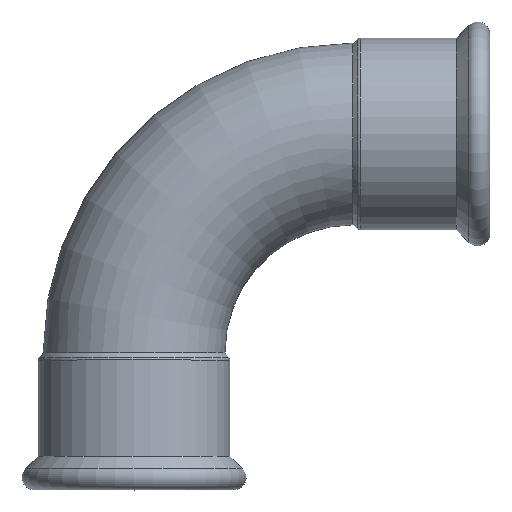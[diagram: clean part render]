
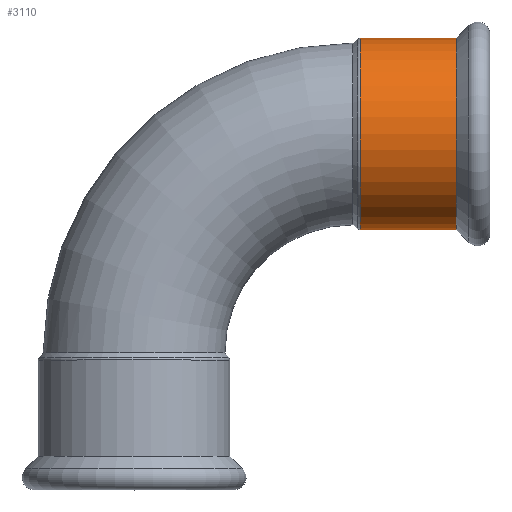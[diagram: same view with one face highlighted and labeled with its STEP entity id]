
A CAD part, top view. The second image highlights one B-rep face of the part: STEP entity #3110.
In plain terms, the highlighted cylindrical face has radius 46.85 mm (diameter 93.7 mm), a partial arc.
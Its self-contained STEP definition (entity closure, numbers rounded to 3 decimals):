
#1760=CARTESIAN_POINT('',(54.615,-46.85,0.));
#1770=VERTEX_POINT('',#1760);
#1950=CARTESIAN_POINT('',(54.615,46.85,0.))
;
#1960=VERTEX_POINT('',#1950);
#1990=CARTESIAN_POINT('',(54.615,0.,0.));
#2000=DIRECTION('',(1.,0.,0.));
#2010=DIRECTION('',(0.,1.,0.));
#2020=AXIS2_PLACEMENT_3D('',#1990,#2000,#2010);
#2030=CIRCLE('',#2020,46.85);
#2790=CARTESIAN_POINT('',(45.44,0.,0.));
#2800=DIRECTION('',(-1.,0.,0.));
#2810=DIRECTION('',(0.,1.,0.));
#2820=AXIS2_PLACEMENT_3D('',#2790,#2800,#2810);
#2830=CYLINDRICAL_SURFACE('',#2820,46.85);
#2840=CARTESIAN_POINT('',(45.44,46.85,0.));
#2850=DIRECTION('',(-1.,0.,0.));
#2860=VECTOR('',#2850,1.);
#2870=LINE('',#2840,#2860);
#2880=CARTESIAN_POINT('',(7.588,46.85,0.));
#2890=VERTEX_POINT('',#2880);
#2900=EDGE_CURVE('',#1960,#2890,#2870,.T.);
#2910=ORIENTED_EDGE('',*,*,#2900,.T.);
#2920=EDGE_CURVE('',#1960,#1770,#2030,.T.);
#2930=ORIENTED_EDGE('',*,*,#2920,.F.);
#2940=CARTESIAN_POINT('',(45.44,-46.85,0.)
);
#2950=DIRECTION('',(-1.,0.,0.));
#2960=VECTOR('',#2950,1.);
#2970=LINE('',#2940,#2960);
#2980=CARTESIAN_POINT('',(7.588,-46.85,0.));
#2990=VERTEX_POINT('',#2980);
#3000=EDGE_CURVE('',#1770,#2990,#2970,.T.);
#3010=ORIENTED_EDGE('',*,*,#3000,.F.);
#3020=CARTESIAN_POINT('',(7.588,0.,0.));
#3030=DIRECTION('',(-1.,0.,0.));
#3040=DIRECTION('',(0.,1.,0.));
#3050=AXIS2_PLACEMENT_3D('',#3020,#3030,#3040);
#3060=CIRCLE('',#3050,46.85);
#3070=EDGE_CURVE('',#2990,#2890,#3060,.T.);
#3080=ORIENTED_EDGE('',*,*,#3070,.F.);
#3090=EDGE_LOOP('',(#3080,#3010,#2930,#2910));
#3100=FACE_OUTER_BOUND('',#3090,.T.);
#3110=ADVANCED_FACE('',(#3100),#2830,.T.);
